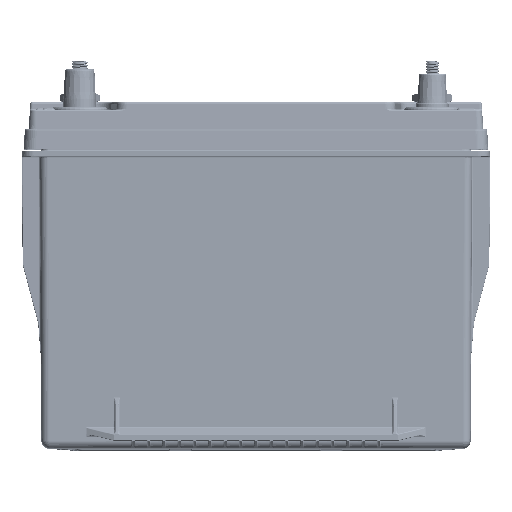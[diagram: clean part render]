
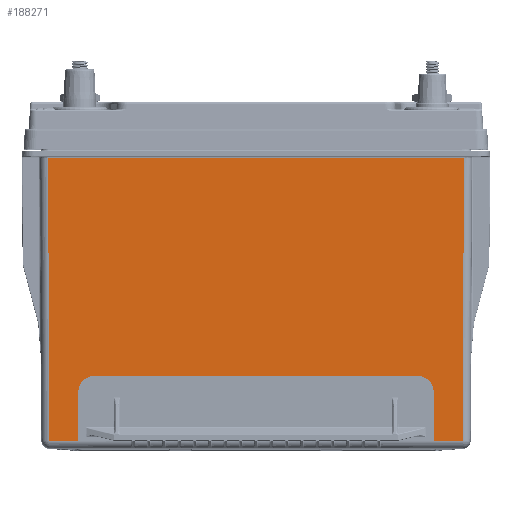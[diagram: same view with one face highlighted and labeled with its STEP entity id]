
A CAD part, top view. The second image highlights one B-rep face of the part: STEP entity #188271.
In plain terms, the highlighted planar face has unit normal (0, -0.003, 1).
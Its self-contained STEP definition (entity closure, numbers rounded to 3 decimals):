
#11683 = CARTESIAN_POINT ( 'NONE',  ( -0.601, 7.281, -0.114 ) ) ;
#16614 = DIRECTION ( 'NONE',  ( 0., -0.003, 1. ) ) ;
#16819 = ORIENTED_EDGE ( 'NONE', *, *, #239302, .F. ) ;
#18087 = LINE ( 'NONE', #88515, #294425 ) ;
#24738 = DIRECTION ( 'NONE',  ( 0., 1., 0.003 ) ) ;
#29384 = DIRECTION ( 'NONE',  ( 0., -1., -0.003 ) ) ;
#29476 = VECTOR ( 'NONE', #412347, 39.37 ) ;
#34859 = VERTEX_POINT ( 'NONE', #282782 ) ;
#44947 = AXIS2_PLACEMENT_3D ( 'NONE', #232516, #124791, #192977 ) ;
#45901 = LINE ( 'NONE', #250565, #207018 ) ;
#63103 = CARTESIAN_POINT ( 'NONE',  ( -1.683, 1.738, -0.129 ) ) ;
#64615 = LINE ( 'NONE', #330844, #99484 ) ;
#69837 = EDGE_CURVE ( 'NONE', #109330, #91711, #287416, .T. ) ;
#75743 = ORIENTED_EDGE ( 'NONE', *, *, #191248, .T. ) ;
#84340 = CIRCLE ( 'NONE', #203689, 0.376 ) ;
#88515 = CARTESIAN_POINT ( 'NONE',  ( -0.452, 0.237, -0.132 ) ) ;
#89318 = CARTESIAN_POINT ( 'NONE',  ( -10.265, 7.333, -0.114 ) ) ;
#91711 = VERTEX_POINT ( 'NONE', #275737 ) ;
#91832 = CARTESIAN_POINT ( 'NONE',  ( -9.183, 1.738, -0.129 ) ) ;
#94185 = EDGE_CURVE ( 'NONE', #91711, #276035, #18087, .T. ) ;
#99484 = VECTOR ( 'NONE', #29384, 39.37 ) ;
#105740 = CARTESIAN_POINT ( 'NONE',  ( -10.262, 6.807, -0.115 ) ) ;
#109330 = VERTEX_POINT ( 'NONE', #105740 ) ;
#112045 = DIRECTION ( 'NONE',  ( 1., 0., 0. ) ) ;
#113050 = LINE ( 'NONE', #11683, #29476 ) ;
#121630 = ORIENTED_EDGE ( 'NONE', *, *, #173216, .F. ) ;
#124791 = DIRECTION ( 'NONE',  ( 0., -0.003, 1. ) ) ;
#135570 = LINE ( 'NONE', #274099, #358904 ) ;
#136616 = CARTESIAN_POINT ( 'NONE',  ( -0.638, 0.237, -0.132 ) ) ;
#139801 = DIRECTION ( 'NONE',  ( -1., 0., 0. ) ) ;
#140966 = VERTEX_POINT ( 'NONE', #240161 ) ;
#142026 = VERTEX_POINT ( 'NONE', #392092 ) ;
#156743 = DIRECTION ( 'NONE',  ( 1., 0., 0. ) ) ;
#159908 = VERTEX_POINT ( 'NONE', #136616 ) ;
#162161 = FACE_OUTER_BOUND ( 'NONE', #255514, .T. ) ;
#167769 = CARTESIAN_POINT ( 'NONE',  ( -1.307, 7.332, -0.114 ) ) ;
#173216 = EDGE_CURVE ( 'NONE', #227671, #285790, #271853, .T. ) ;
#182321 = ORIENTED_EDGE ( 'NONE', *, *, #201008, .T. ) ;
#183917 = CARTESIAN_POINT ( 'NONE',  ( -9.183, 1.362, -0.13 ) ) ;
#186085 = VECTOR ( 'NONE', #24738, 39.37 ) ;
#188271 = ADVANCED_FACE ( 'NONE', ( #162161 ), #362386, .T. ) ;
#191248 = EDGE_CURVE ( 'NONE', #140966, #159908, #45901, .T. ) ;
#192977 = DIRECTION ( 'NONE',  ( 0., -1., -0.003 ) ) ;
#201008 = EDGE_CURVE ( 'NONE', #159908, #142026, #113050, .T. ) ;
#203689 = AXIS2_PLACEMENT_3D ( 'NONE', #183917, #16614, #318101 ) ;
#207018 = VECTOR ( 'NONE', #112045, 39.37 ) ;
#216422 = CARTESIAN_POINT ( 'NONE',  ( -1.307, 1.362, -0.13 ) ) ;
#223364 = VECTOR ( 'NONE', #388668, 39.37 ) ;
#227224 = LINE ( 'NONE', #167769, #186085 ) ;
#227671 = VERTEX_POINT ( 'NONE', #63103 ) ;
#230735 = DIRECTION ( 'NONE',  ( 0., -0.003, 1. ) ) ;
#232516 = CARTESIAN_POINT ( 'NONE',  ( -10.452, 7.332, -0.114 ) ) ;
#234594 = DIRECTION ( 'NONE',  ( -1., 0., 0. ) ) ;
#238851 = CARTESIAN_POINT ( 'NONE',  ( -9.183, 1.738, -0.129 ) ) ;
#239302 = EDGE_CURVE ( 'NONE', #140966, #325333, #227224, .T. ) ;
#240161 = CARTESIAN_POINT ( 'NONE',  ( -1.307, 0.237, -0.132 ) ) ;
#243774 = ORIENTED_EDGE ( 'NONE', *, *, #312221, .F. ) ;
#249814 = VECTOR ( 'NONE', #139801, 39.37 ) ;
#250565 = CARTESIAN_POINT ( 'NONE',  ( -0.452, 0.237, -0.132 ) ) ;
#255514 = EDGE_LOOP ( 'NONE', ( #16819, #75743, #182321, #406520, #298781, #341449, #376589, #243774, #121630, #434421 ) ) ;
#271853 = LINE ( 'NONE', #238851, #249814 ) ;
#274099 = CARTESIAN_POINT ( 'NONE',  ( -10.452, 6.807, -0.115 ) ) ;
#275737 = CARTESIAN_POINT ( 'NONE',  ( -10.228, 0.237, -0.132 ) ) ;
#276035 = VERTEX_POINT ( 'NONE', #431293 ) ;
#282782 = CARTESIAN_POINT ( 'NONE',  ( -9.559, 1.362, -0.13 ) ) ;
#285790 = VERTEX_POINT ( 'NONE', #91832 ) ;
#287416 = LINE ( 'NONE', #89318, #223364 ) ;
#294425 = VECTOR ( 'NONE', #156743, 39.37 ) ;
#298781 = ORIENTED_EDGE ( 'NONE', *, *, #69837, .T. ) ;
#306613 = EDGE_CURVE ( 'NONE', #325333, #227671, #433779, .T. ) ;
#312221 = EDGE_CURVE ( 'NONE', #285790, #34859, #84340, .T. ) ;
#318101 = DIRECTION ( 'NONE',  ( 0., 1., 0.003 ) ) ;
#325333 = VERTEX_POINT ( 'NONE', #216422 ) ;
#330844 = CARTESIAN_POINT ( 'NONE',  ( -9.559, 1.362, -0.13 ) ) ;
#341449 = ORIENTED_EDGE ( 'NONE', *, *, #94185, .T. ) ;
#342430 = EDGE_CURVE ( 'NONE', #34859, #276035, #64615, .T. ) ;
#358904 = VECTOR ( 'NONE', #234594, 39.37 ) ;
#360621 = DIRECTION ( 'NONE',  ( 0., -1., -0.003 ) ) ;
#362386 = PLANE ( 'NONE',  #44947 ) ;
#363642 = AXIS2_PLACEMENT_3D ( 'NONE', #402452, #230735, #360621 ) ;
#376589 = ORIENTED_EDGE ( 'NONE', *, *, #342430, .F. ) ;
#388668 = DIRECTION ( 'NONE',  ( 0.005, -1., -0.003 ) ) ;
#392092 = CARTESIAN_POINT ( 'NONE',  ( -0.604, 6.807, -0.115 ) ) ;
#402452 = CARTESIAN_POINT ( 'NONE',  ( -1.683, 1.362, -0.13 ) ) ;
#406520 = ORIENTED_EDGE ( 'NONE', *, *, #429078, .T. ) ;
#412347 = DIRECTION ( 'NONE',  ( 0.005, 1., 0.003 ) ) ;
#429078 = EDGE_CURVE ( 'NONE', #142026, #109330, #135570, .T. ) ;
#431293 = CARTESIAN_POINT ( 'NONE',  ( -9.559, 0.237, -0.132 ) ) ;
#433779 = CIRCLE ( 'NONE', #363642, 0.376 ) ;
#434421 = ORIENTED_EDGE ( 'NONE', *, *, #306613, .F. ) ;
